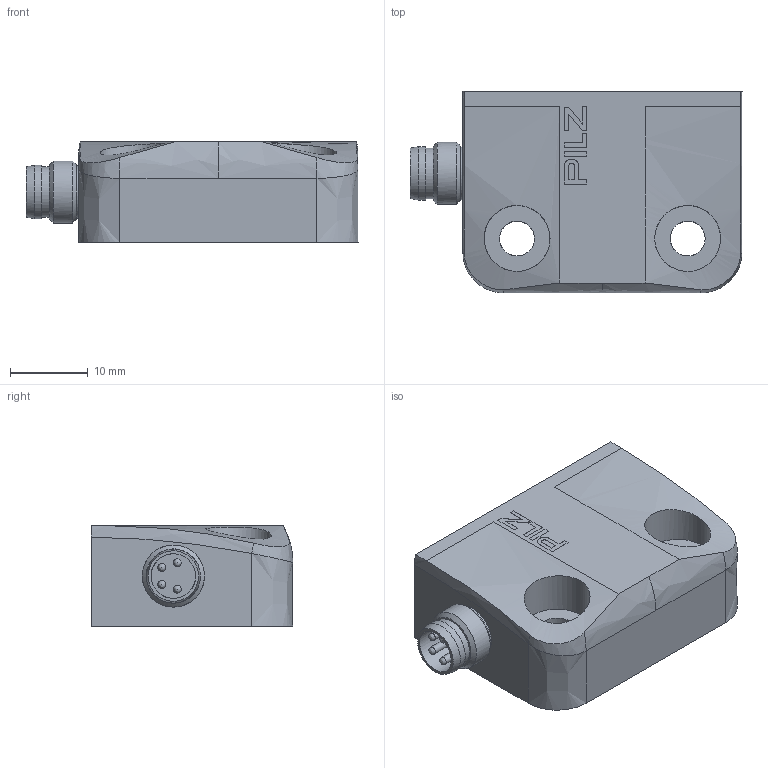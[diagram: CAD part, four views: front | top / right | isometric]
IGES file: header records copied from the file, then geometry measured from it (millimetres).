
Global section: file name: 2025866_A_PSEN_X_1p_switch; native system: Autodesk Inventor 2017; preprocessor: unknown; author: prim; date: 20180221.091201; units: millimetre
Bounding box: 42.8 x 26 x 13.01 mm (x, y, z)
Volume: 10861 mm3; surface area: 4049.7 mm2
Topology: 1 solids, 1 shells, 94 faces, 272 edges, 194 vertices
Faces by surface type: bspline 94
